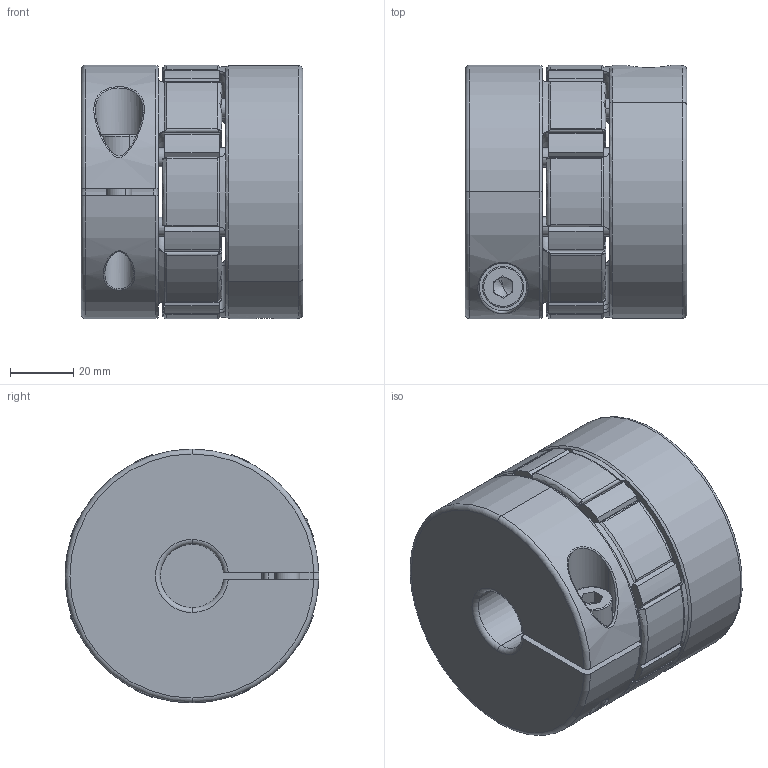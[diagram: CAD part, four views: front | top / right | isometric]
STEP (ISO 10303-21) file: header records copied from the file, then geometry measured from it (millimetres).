
FILE_DESCRIPTION (( 'STEP AP203' ), '1' );
FILE_NAME ('DXA-80X70-20-20.STEP', '2023-10-18T06:26:02', ( '' ), ( '' ), 'SwSTEP 2.0', 'SolidWorks 2020', '' );
FILE_SCHEMA (( 'CONFIG_CONTROL_DESIGN' ));
Length unit declared in the file: millimetre
Products named in the file (4): socket head cap screw_iso_ISO 4762 M8 x 25 - 25C; DXA-80X70-20-20; 80X70標踡倰傷窒璃; 80繩豪菜
Assembly tree (5 placements, depth 2):
  DXA-80X70-20-20
    80X70標踡倰傷窒璃  x2
    80繩豪菜
    socket head cap screw_iso_ISO 4762 M8 x 25 - 25C  x2
Bounding box: 70 x 80 x 80 mm (x, y, z)
Volume: 312426.6 mm3; surface area: 65123.1 mm2
Topology: 5 solids, 5 shells, 513 faces, 1239 edges, 736 vertices
Faces by surface type: cylinder 185, torus 116, bspline 88, plane 74, cone 50
Entity records: 13518 total; most frequent: CARTESIAN_POINT 6399, DIRECTION 1427, ORIENTED_EDGE 1402, EDGE_CURVE 701, AXIS2_PLACEMENT_3D 634, VERTEX_POINT 429, CIRCLE 376, EDGE_LOOP 314
